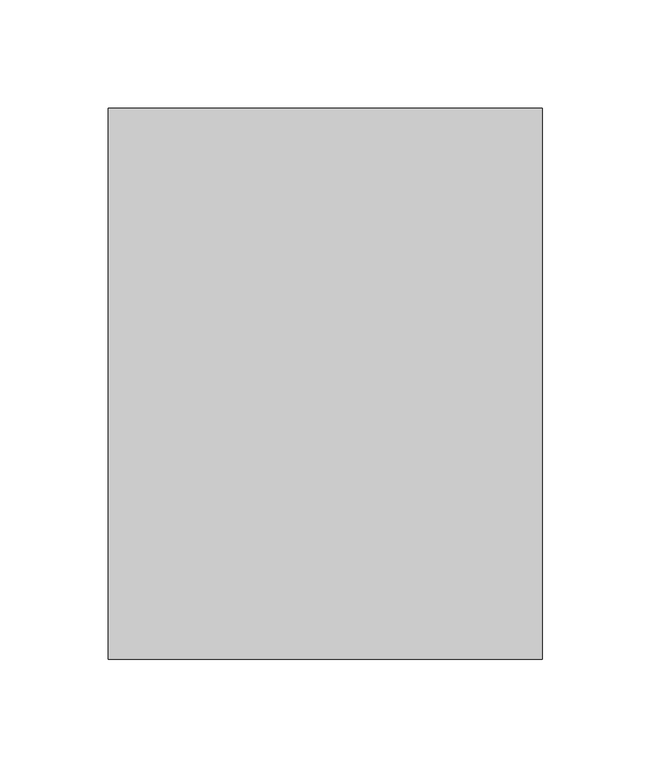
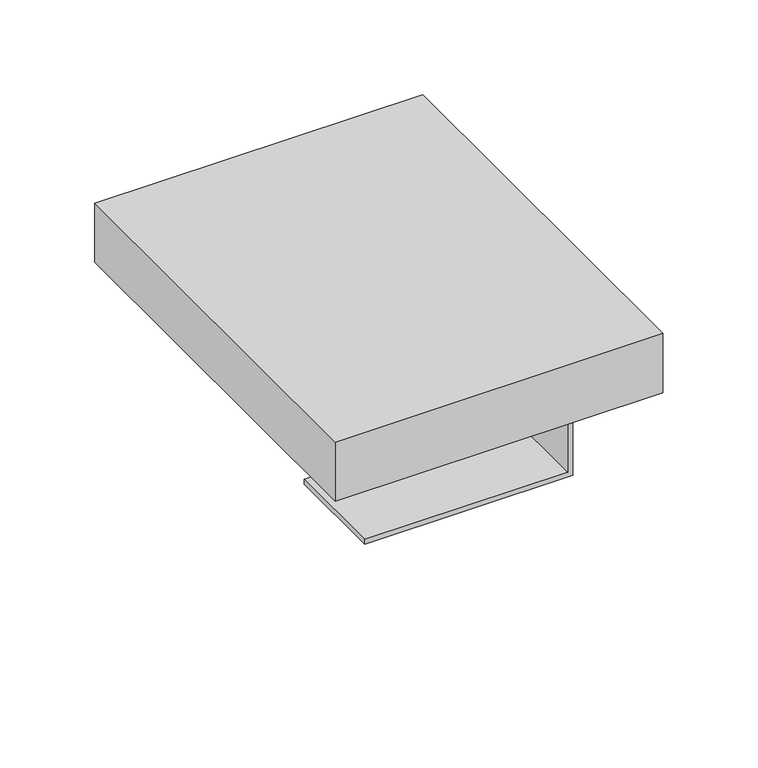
"""IFC4 building model written with IfcOpenShell, lengths in millimetres: furniture geometry, HermanMiller_Carts_CT734_SharpsContainerHolder : 9H x 3D."""

from ifc_helpers import new_model, si_unit, frame, origin, place, context, project, spatial, polyline, outline, extrude, faceted_brep, source, transform, mapped, element, save


def furniture_92bb6587(model_context):
    return source(origin(), model_context, "Body", "SolidModel", [
        extrude(outline(polyline([(-99.9451517, 127.0), (100.0798483, 127.0), (100.0798483, -127.0), (-99.9451517, -127.0), (-99.9451517, 127.0)])), frame((0.0, 0.0, 769.9311154), z_axis=(0.0, 0.0, 1.0), x_axis=(1.0, 0.0, 0.0)), (0.0, 0.0, 1.0), 38.1),
        faceted_brep([(-99.9451517, 127.0, 808.0311154), (-99.9451517, -127.0, 808.0311154), (100.0798483, -127.0, 808.0311154), (100.0798483, 127.0, 808.0311154), (96.9048483, -123.825, 808.0311154), (-96.7701517, -123.825, 808.0311154), (-96.7701517, 123.825, 808.0311154), (96.9048483, 123.825, 808.0311154), (-99.9451517, 127.0, 769.9311154), (100.0798483, 127.0, 769.9311154), (100.0798483, 31.9084857, 769.9311154), (96.9048483, 31.9084857, 769.9311154), (96.9048483, 123.825, 769.9311154), (-96.7701517, 123.825, 769.9311154), (-96.7701517, -123.825, 769.9311154), (96.9048483, -123.825, 769.9311154), (96.9048483, -31.8004624, 769.9311154), (100.0798483, -31.8004624, 769.9311154), (100.0798483, -127.0, 769.9311154), (-99.9451517, -127.0, 769.9311154), (100.0798483, -31.8004624, 658.8125), (100.0798483, 31.9084857, 658.8125), (96.9048483, 31.9084857, 661.9875), (96.9048483, -31.8004624, 661.9875), (-26.9201517, 31.9084857, 658.8125), (-26.9201517, 31.9084857, 661.9875), (-26.9201517, -31.8004624, 661.9875), (-26.9201517, -31.8004624, 658.8125)], [[[0, 1, 2, 3], [4, 5, 6, 7]], [[8, 9, 10, 11, 12, 13, 14, 15, 16, 17, 18, 19]], [[1, 0, 8, 19]], [[2, 1, 19, 18]], [[3, 2, 18, 17, 20, 21, 10, 9]], [[0, 3, 9, 8]], [[5, 4, 15, 14]], [[6, 5, 14, 13]], [[7, 6, 13, 12]], [[4, 7, 12, 11, 22, 23, 16, 15]], [[21, 24, 25, 22, 11, 10]], [[20, 17, 16, 23, 26, 27]], [[24, 21, 20, 27]], [[25, 24, 27, 26]], [[22, 25, 26, 23]]]),
    ])


if __name__ == "__main__":
    model = new_model("IFC4")
    model_context = context("Model", 3, world=origin())
    ifc_project = project(units=[si_unit("LENGTHUNIT", "METRE", prefix="MILLI")], contexts=[model_context])
    site = spatial("IfcSite", under=ifc_project)
    building = spatial("IfcBuilding", under=site)
    placement = place(None, origin())
    furniture_shape = furniture_92bb6587(model_context)
    element("IfcFurniture", 1, ObjectType="HermanMiller_Carts_CT734_SharpsContainerHolder : 9H x 3D", at=placement, inside=building, context=model_context, shape_type="MappedRepresentation", body=[
        mapped(furniture_shape, transform((0.0, 0.0, 0.0), x_axis=(1.0, 0.0, 0.0), y_axis=(0.0, 1.0, 0.0), z_axis=(0.0, 0.0, 1.0))),
    ])
    save(model, "model.ifc")
